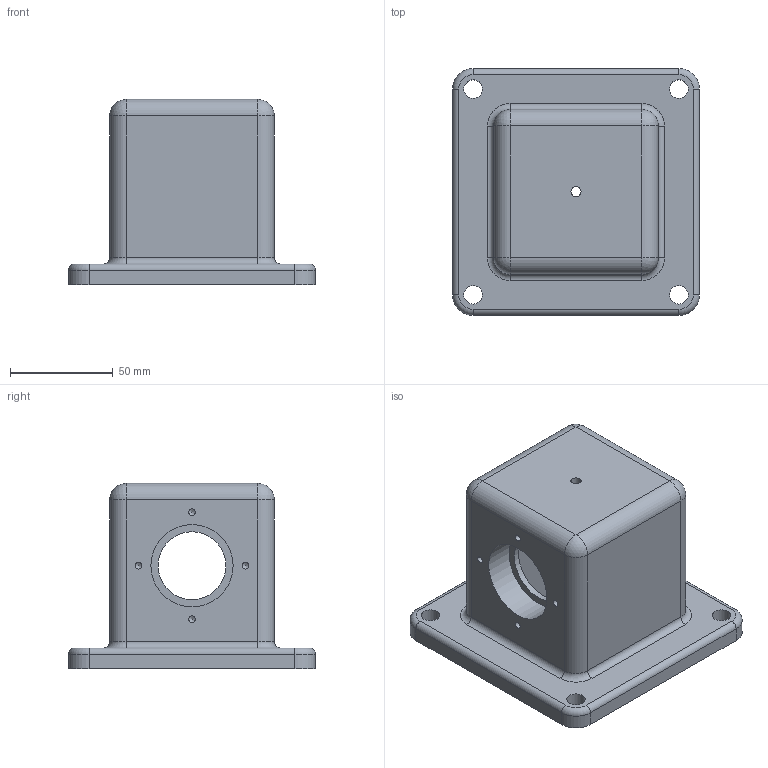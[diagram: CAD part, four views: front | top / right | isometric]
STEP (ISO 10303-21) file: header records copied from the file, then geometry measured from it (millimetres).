
FILE_DESCRIPTION(/* description */ (''),/* implementation_level */ '2;1');
FILE_NAME(/* name */ 'C:\Users\now\Desktop\381109E1013-하우징.stp',/* time_stamp */ '2018-11-10T10:40:43+09:00',/* author */ ('now'),/* organization */ (''),/* preprocessor_version */ 'ST-DEVELOPER v15.6',/* originating_system */ 'Autodesk Inventor 2015',/* authorisation */ '');
FILE_SCHEMA (('AUTOMOTIVE_DESIGN { 1 0 10303 214 3 1 1 }'));
Length unit declared in the file: millimetre
Products named in the file (1): 381109E1013-하우징
Bounding box: 120 x 120 x 90 mm (x, y, z)
Volume: 382273.3 mm3; surface area: 74653.2 mm2
Topology: 1 solids, 1 shells, 79 faces, 180 edges, 107 vertices
Faces by surface type: cylinder 41, plane 18, cone 8, torus 8, sphere 4
Full cylindrical faces by diameter (mm): 3.242 x8, 4.917 x1, 9 x4, 33 x2, 40 x2
Entity records: 2054 total; most frequent: DIRECTION 392, CARTESIAN_POINT 324, ORIENTED_EDGE 292, AXIS2_PLACEMENT_3D 166, EDGE_CURVE 146, EDGE_LOOP 122, VERTEX_POINT 98, CIRCLE 82
